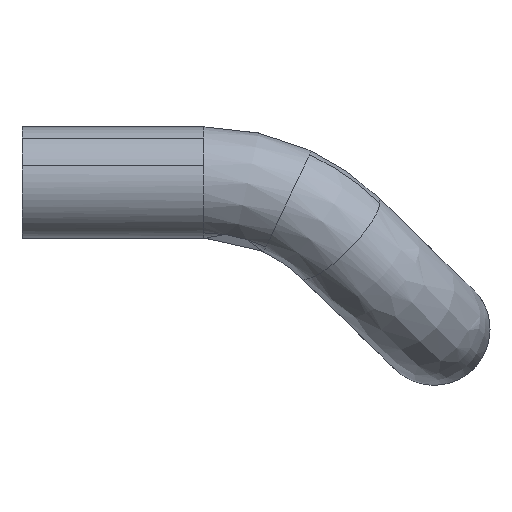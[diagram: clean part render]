
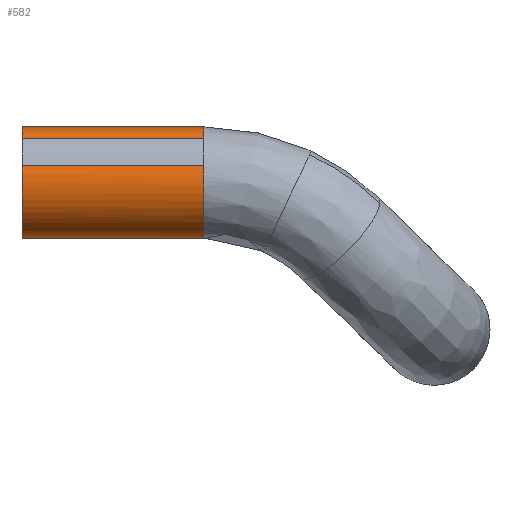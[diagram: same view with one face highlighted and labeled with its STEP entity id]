
A CAD part, left-side view. The second image highlights one B-rep face of the part: STEP entity #582.
In plain terms, the highlighted free-form (B-spline) face has degree [2, 1] with [9, 2] control points.
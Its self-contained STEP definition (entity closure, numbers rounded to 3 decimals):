
#412=CARTESIAN_POINT('',(-52.405,16.175,13.696));
#413=CARTESIAN_POINT('',(-50.76,16.175,14.934));
#414=CARTESIAN_POINT('',(-48.796,16.175,14.315));
#415=CARTESIAN_POINT('',(-44.982,16.175,13.112));
#416=CARTESIAN_POINT('',(-46.185,16.175,9.297));
#417=CARTESIAN_POINT('',(-47.388,16.175,5.482));
#418=CARTESIAN_POINT('',(-51.203,16.175,6.685));
#419=CARTESIAN_POINT('',(-55.018,16.175,7.888));
#420=CARTESIAN_POINT('',(-53.814,16.175,11.703));
#421=CARTESIAN_POINT('',(-52.405,29.833,13.696));
#422=CARTESIAN_POINT('',(-50.76,29.833,14.934));
#423=CARTESIAN_POINT('',(-48.796,29.833,14.315));
#424=CARTESIAN_POINT('',(-44.982,29.833,13.112));
#425=CARTESIAN_POINT('',(-46.185,29.833,9.297));
#426=CARTESIAN_POINT('',(-47.388,29.833,5.482));
#427=CARTESIAN_POINT('',(-51.203,29.833,6.685));
#428=CARTESIAN_POINT('',(-55.018,29.833,7.888));
#429=CARTESIAN_POINT('',(-53.814,29.833,11.703));
#437=(BOUNDED_SURFACE()B_SPLINE_SURFACE(2,1,((#412,#421),(#413,#422),(#414,#423),(#415,#424),(#416,#425),(#417,#426),(#418,#427),(#419,#428),(#420,#429)),.UNSPECIFIED.,.F.,.F.,.U.)B_SPLINE_SURFACE_WITH_KNOTS((3,2,2,2,3),(2,2),(0.0,3.976,10.604,17.231,23.859),(0.0,13.658),.UNSPECIFIED.)GEOMETRIC_REPRESENTATION_ITEM()RATIONAL_B_SPLINE_SURFACE(((0.859,0.859),(0.824,0.824),(1.0,1.0),(0.707,0.707),(1.0,1.0),(0.707,0.707),(1.0,1.0),(0.707,0.707),(1.0,1.0)))REPRESENTATION_ITEM('')SURFACE());
#438=CARTESIAN_POINT('',(-49.999,16.5,14.5));
#439=VERTEX_POINT('',#438);
#440=CARTESIAN_POINT('',(-52.405,16.5,13.696));
#441=VERTEX_POINT('',#440);
#442=CARTESIAN_POINT('',(-49.999,16.5,14.5));
#443=CARTESIAN_POINT('',(-51.336,16.5,14.5));
#444=CARTESIAN_POINT('',(-52.405,16.5,13.696));
#452=(BOUNDED_CURVE()B_SPLINE_CURVE(2,(#442,#443,#444),.UNSPECIFIED.,.F.,.U.)B_SPLINE_CURVE_WITH_KNOTS((3,3),(0.5,0.604),.UNSPECIFIED.)CURVE()GEOMETRIC_REPRESENTATION_ITEM()RATIONAL_B_SPLINE_CURVE((1.0,0.878,0.858))REPRESENTATION_ITEM(''));
#453=EDGE_CURVE('',#439,#441,#452,.T.);
#454=ORIENTED_EDGE('',*,*,#453,.F.);
#455=CARTESIAN_POINT('',(-46.508,16.5,8.549));
#456=VERTEX_POINT('',#455);
#457=CARTESIAN_POINT('',(-46.508,16.5,8.549));
#458=CARTESIAN_POINT('',(-46.,16.5,9.458));
#459=CARTESIAN_POINT('',(-46.,16.5,10.5));
#460=CARTESIAN_POINT('',(-45.999,16.5,14.5));
#461=CARTESIAN_POINT('',(-49.999,16.5,14.5));
#469=(BOUNDED_CURVE()B_SPLINE_CURVE(2,(#457,#458,#459,#460,#461),.UNSPECIFIED.,.F.,.U.)B_SPLINE_CURVE_WITH_KNOTS((3,2,3),(0.167,0.25,0.5),.UNSPECIFIED.)CURVE()GEOMETRIC_REPRESENTATION_ITEM()RATIONAL_B_SPLINE_CURVE((0.87,0.903,1.0,0.707,1.0))REPRESENTATION_ITEM(''));
#470=EDGE_CURVE('',#456,#439,#469,.T.);
#471=ORIENTED_EDGE('',*,*,#470,.F.);
#472=CARTESIAN_POINT('',(-50.,16.5,6.5));
#473=VERTEX_POINT('',#472);
#474=CARTESIAN_POINT('',(-50.,16.5,6.5));
#475=CARTESIAN_POINT('',(-47.653,16.5,6.5));
#476=CARTESIAN_POINT('',(-46.508,16.5,8.549));
#484=(BOUNDED_CURVE()B_SPLINE_CURVE(2,(#474,#475,#476),.UNSPECIFIED.,.F.,.U.)B_SPLINE_CURVE_WITH_KNOTS((3,3),(0.0,0.167),.UNSPECIFIED.)CURVE()GEOMETRIC_REPRESENTATION_ITEM()RATIONAL_B_SPLINE_CURVE((1.0,0.804,0.87))REPRESENTATION_ITEM(''));
#485=EDGE_CURVE('',#473,#456,#484,.T.);
#486=ORIENTED_EDGE('',*,*,#485,.F.);
#487=CARTESIAN_POINT('',(-51.748,16.5,6.902));
#488=VERTEX_POINT('',#487);
#489=CARTESIAN_POINT('',(-51.748,16.5,6.902));
#490=CARTESIAN_POINT('',(-50.92,16.5,6.5));
#491=CARTESIAN_POINT('',(-50.,16.5,6.5));
#499=(BOUNDED_CURVE()B_SPLINE_CURVE(2,(#489,#490,#491),.UNSPECIFIED.,.F.,.U.)B_SPLINE_CURVE_WITH_KNOTS((3,3),(0.926,1.0),.UNSPECIFIED.)CURVE()GEOMETRIC_REPRESENTATION_ITEM()RATIONAL_B_SPLINE_CURVE((0.878,0.913,1.0))REPRESENTATION_ITEM(''));
#500=EDGE_CURVE('',#488,#473,#499,.T.);
#501=ORIENTED_EDGE('',*,*,#500,.F.);
#502=CARTESIAN_POINT('',(-53.814,16.5,11.703));
#503=VERTEX_POINT('',#502);
#504=CARTESIAN_POINT('',(-53.814,16.5,11.703));
#505=CARTESIAN_POINT('',(-54.,16.5,11.116));
#506=CARTESIAN_POINT('',(-54.,16.5,10.5));
#507=CARTESIAN_POINT('',(-54.,16.5,7.997));
#508=CARTESIAN_POINT('',(-51.748,16.5,6.902));
#516=(BOUNDED_CURVE()B_SPLINE_CURVE(2,(#504,#505,#506,#507,#508),.UNSPECIFIED.,.F.,.U.)B_SPLINE_CURVE_WITH_KNOTS((3,2,3),(0.699,0.75,0.926),.UNSPECIFIED.)CURVE()GEOMETRIC_REPRESENTATION_ITEM()RATIONAL_B_SPLINE_CURVE((0.905,0.94,1.0,0.794,0.878))REPRESENTATION_ITEM(''));
#517=EDGE_CURVE('',#503,#488,#516,.T.);
#518=ORIENTED_EDGE('',*,*,#517,.F.);
#519=CARTESIAN_POINT('',(-53.814,29.5,11.703));
#520=VERTEX_POINT('',#519);
#521=CARTESIAN_POINT('',(-53.814,16.5,11.703));
#522=CARTESIAN_POINT('',(-53.814,29.5,11.703));
#523=QUASI_UNIFORM_CURVE('',1,(#521,#522),.UNSPECIFIED.,.F.,.U.);
#524=EDGE_CURVE('',#503,#520,#523,.T.);
#525=ORIENTED_EDGE('',*,*,#524,.T.);
#526=CARTESIAN_POINT('',(-50.,29.5,6.5));
#527=VERTEX_POINT('',#526);
#528=CARTESIAN_POINT('',(-53.814,29.5,11.703));
#529=CARTESIAN_POINT('',(-54.,29.5,11.116));
#530=CARTESIAN_POINT('',(-54.,29.5,10.5));
#531=CARTESIAN_POINT('',(-54.,29.5,6.5));
#532=CARTESIAN_POINT('',(-50.,29.5,6.5));
#540=(BOUNDED_CURVE()B_SPLINE_CURVE(2,(#528,#529,#530,#531,#532),.UNSPECIFIED.,.F.,.U.)B_SPLINE_CURVE_WITH_KNOTS((3,2,3),(0.699,0.75,1.0),.UNSPECIFIED.)CURVE()GEOMETRIC_REPRESENTATION_ITEM()RATIONAL_B_SPLINE_CURVE((0.905,0.94,1.0,0.707,1.0))REPRESENTATION_ITEM(''));
#541=EDGE_CURVE('',#520,#527,#540,.T.);
#542=ORIENTED_EDGE('',*,*,#541,.T.);
#543=CARTESIAN_POINT('',(-49.999,29.5,14.5));
#544=VERTEX_POINT('',#543);
#545=CARTESIAN_POINT('',(-50.,29.5,6.5));
#546=CARTESIAN_POINT('',(-46.,29.5,6.5));
#547=CARTESIAN_POINT('',(-46.,29.5,10.5));
#548=CARTESIAN_POINT('',(-45.999,29.5,14.5));
#549=CARTESIAN_POINT('',(-49.999,29.5,14.5));
#557=(BOUNDED_CURVE()B_SPLINE_CURVE(2,(#545,#546,#547,#548,#549),.UNSPECIFIED.,.F.,.U.)B_SPLINE_CURVE_WITH_KNOTS((3,2,3),(0.0,0.25,0.5),.UNSPECIFIED.)CURVE()GEOMETRIC_REPRESENTATION_ITEM()RATIONAL_B_SPLINE_CURVE((1.0,0.707,1.0,0.707,1.0))REPRESENTATION_ITEM(''));
#558=EDGE_CURVE('',#527,#544,#557,.T.);
#559=ORIENTED_EDGE('',*,*,#558,.T.);
#560=CARTESIAN_POINT('',(-52.405,29.5,13.696));
#561=VERTEX_POINT('',#560);
#562=CARTESIAN_POINT('',(-49.999,29.5,14.5));
#563=CARTESIAN_POINT('',(-51.336,29.5,14.5));
#564=CARTESIAN_POINT('',(-52.405,29.5,13.696));
#572=(BOUNDED_CURVE()B_SPLINE_CURVE(2,(#562,#563,#564),.UNSPECIFIED.,.F.,.U.)B_SPLINE_CURVE_WITH_KNOTS((3,3),(0.5,0.604),.UNSPECIFIED.)CURVE()GEOMETRIC_REPRESENTATION_ITEM()RATIONAL_B_SPLINE_CURVE((1.0,0.878,0.858))REPRESENTATION_ITEM(''));
#573=EDGE_CURVE('',#544,#561,#572,.T.);
#574=ORIENTED_EDGE('',*,*,#573,.T.);
#575=CARTESIAN_POINT('',(-52.405,16.5,13.696));
#576=CARTESIAN_POINT('',(-52.405,29.5,13.696));
#577=QUASI_UNIFORM_CURVE('',1,(#575,#576),.UNSPECIFIED.,.F.,.U.);
#578=EDGE_CURVE('',#441,#561,#577,.T.);
#579=ORIENTED_EDGE('',*,*,#578,.F.);
#580=EDGE_LOOP('',(#454,#471,#486,#501,#518,#525,#542,#559,#574,#579));
#581=FACE_OUTER_BOUND('',#580,.T.);
#582=ADVANCED_FACE('',(#581),#437,.T.);
